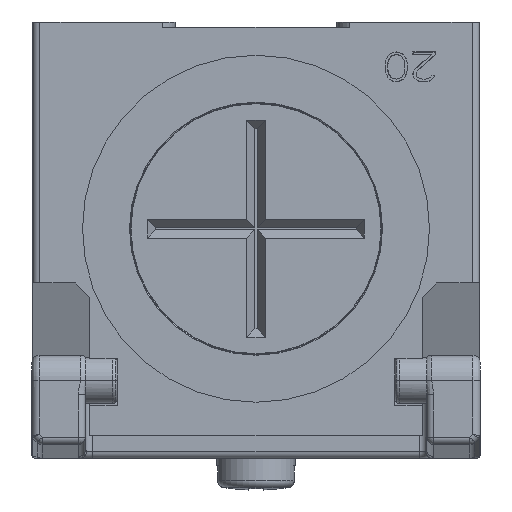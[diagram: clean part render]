
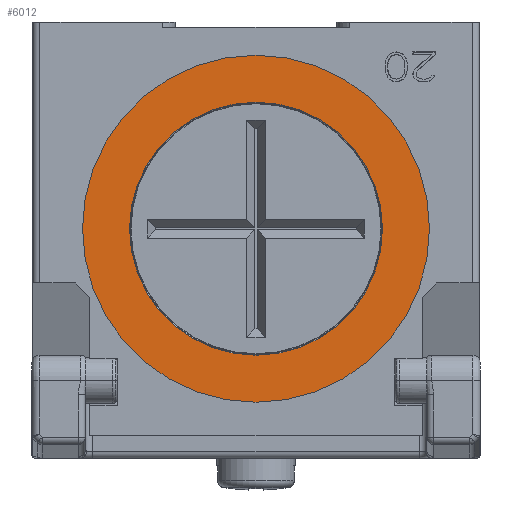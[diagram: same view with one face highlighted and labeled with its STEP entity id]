
A CAD part, front view. The second image highlights one B-rep face of the part: STEP entity #6012.
In plain terms, the highlighted planar face has unit normal (0, -1, 0) as drawn and (-1, 0, 0) by its records, which use the part's own axes.
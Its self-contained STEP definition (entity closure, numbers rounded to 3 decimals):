
#1124=FACE_BOUND('',#9358,.T.);
#1125=FACE_BOUND('',#9359,.T.);
#6012=ADVANCED_FACE('',(#1124,#1125),#7379,.F.);
#7379=PLANE('',#25342);
#9358=EDGE_LOOP('',(#10858,#10859));
#9359=EDGE_LOOP('',(#10860,#10861));
#10858=ORIENTED_EDGE('',*,*,#20602,.F.);
#10859=ORIENTED_EDGE('',*,*,#20600,.T.);
#10860=ORIENTED_EDGE('',*,*,#20603,.T.);
#10861=ORIENTED_EDGE('',*,*,#20604,.T.);
#18208=VERTEX_POINT('',#34766);
#18209=VERTEX_POINT('',#34768);
#18210=VERTEX_POINT('',#34774);
#18211=VERTEX_POINT('',#34775);
#20600=EDGE_CURVE('',#18209,#18208,#24279,.T.);
#20602=EDGE_CURVE('',#18209,#18208,#24280,.T.);
#20603=EDGE_CURVE('',#18210,#18211,#24281,.T.);
#20604=EDGE_CURVE('',#18211,#18210,#24282,.T.);
#24279=CIRCLE('',#25336,12.);
#24280=CIRCLE('',#25338,12.);
#24281=CIRCLE('',#25340,8.75);
#24282=CIRCLE('',#25341,8.75);
#25336=AXIS2_PLACEMENT_3D('',#34767,#27743,#27744);
#25338=AXIS2_PLACEMENT_3D('',#34771,#27748,#27749);
#25340=AXIS2_PLACEMENT_3D('',#34773,#27752,#27753);
#25341=AXIS2_PLACEMENT_3D('',#34776,#27754,#27755);
#25342=AXIS2_PLACEMENT_3D('',#34777,#27756,#27757);
#27743=DIRECTION('',(-1.,0.,0.));
#27744=DIRECTION('',(0.,1.,0.));
#27748=DIRECTION('',(1.,0.,0.));
#27749=DIRECTION('',(0.,1.,0.));
#27752=DIRECTION('',(1.,0.,0.));
#27753=DIRECTION('',(0.,-1.,0.));
#27754=DIRECTION('',(1.,0.,0.));
#27755=DIRECTION('',(0.,1.,0.));
#27756=DIRECTION('',(1.,0.,0.));
#27757=DIRECTION('',(0.,-1.,0.));
#34766=CARTESIAN_POINT('',(0.,-12.,0.));
#34767=CARTESIAN_POINT('',(0.,0.,0.));
#34768=CARTESIAN_POINT('',(0.,12.,0.));
#34771=CARTESIAN_POINT('',(0.,0.,0.));
#34773=CARTESIAN_POINT('',(0.,0.,0.));
#34774=CARTESIAN_POINT('',(0.,-8.75,0.));
#34775=CARTESIAN_POINT('',(0.,8.75,0.));
#34776=CARTESIAN_POINT('',(0.,0.,0.));
#34777=CARTESIAN_POINT('',(0.,0.,0.));
